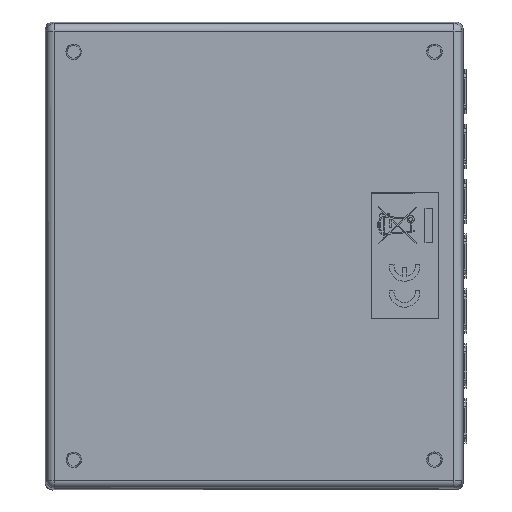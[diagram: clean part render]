
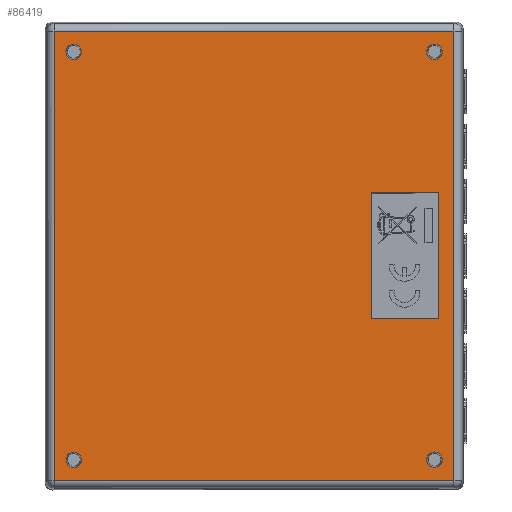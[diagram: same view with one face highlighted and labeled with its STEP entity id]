
A CAD part, front view. The second image highlights one B-rep face of the part: STEP entity #86419.
In plain terms, the highlighted planar face has unit normal (0, -1, 0) as drawn and (0, 0, -1) by its records, which use the part's own axes.
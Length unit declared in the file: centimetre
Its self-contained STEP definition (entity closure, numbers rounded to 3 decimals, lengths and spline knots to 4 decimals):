
#25109=CIRCLE('',#90044,0.1249);
#25110=CIRCLE('',#90045,0.1249);
#25111=CIRCLE('',#90046,0.1249);
#25112=CIRCLE('',#90047,0.1249);
#29337=VERTEX_POINT('',#111005);
#29338=VERTEX_POINT('',#111007);
#29340=VERTEX_POINT('',#111013);
#29342=VERTEX_POINT('',#111019);
#29463=VERTEX_POINT('',#112091);
#29464=VERTEX_POINT('',#112093);
#29465=VERTEX_POINT('',#112095);
#29466=VERTEX_POINT('',#112097);
#29467=VERTEX_POINT('',#112099);
#29468=VERTEX_POINT('',#112100);
#29469=VERTEX_POINT('',#112102);
#29470=VERTEX_POINT('',#112104);
#35680=VECTOR('',#95673,1.);
#35683=VECTOR('',#95677,1.);
#35686=VECTOR('',#95681,1.);
#35689=VECTOR('',#95685,1.);
#35850=VECTOR('',#95918,1.);
#35851=VECTOR('',#95919,1.);
#35852=VECTOR('',#95920,1.);
#35853=VECTOR('',#95921,1.);
#42544=LINE('',#111006,#35680);
#42547=LINE('',#111012,#35683);
#42550=LINE('',#111018,#35686);
#42553=LINE('',#111023,#35689);
#42714=LINE('',#112098,#35850);
#42715=LINE('',#112101,#35851);
#42716=LINE('',#112103,#35852);
#42717=LINE('',#112105,#35853);
#49512=EDGE_CURVE('',#29338,#29337,#42544,.F.);
#49515=EDGE_CURVE('',#29340,#29338,#42547,.F.);
#49518=EDGE_CURVE('',#29342,#29340,#42550,.F.);
#49521=EDGE_CURVE('',#29337,#29342,#42553,.F.);
#49702=EDGE_CURVE('',#29463,#29463,#25109,.F.);
#49703=EDGE_CURVE('',#29464,#29464,#25110,.F.);
#49704=EDGE_CURVE('',#29465,#29465,#25111,.F.);
#49705=EDGE_CURVE('',#29466,#29466,#25112,.F.);
#49706=EDGE_CURVE('',#29467,#29468,#42714,.T.);
#49707=EDGE_CURVE('',#29469,#29467,#42715,.T.);
#49708=EDGE_CURVE('',#29470,#29469,#42716,.T.);
#49709=EDGE_CURVE('',#29468,#29470,#42717,.T.);
#60157=ORIENTED_EDGE('',*,*,#49702,.T.);
#60158=ORIENTED_EDGE('',*,*,#49703,.T.);
#60159=ORIENTED_EDGE('',*,*,#49704,.T.);
#60160=ORIENTED_EDGE('',*,*,#49705,.T.);
#60161=ORIENTED_EDGE('',*,*,#49706,.F.);
#60162=ORIENTED_EDGE('',*,*,#49707,.F.);
#60163=ORIENTED_EDGE('',*,*,#49708,.F.);
#60164=ORIENTED_EDGE('',*,*,#49709,.F.);
#60165=ORIENTED_EDGE('',*,*,#49512,.T.);
#60166=ORIENTED_EDGE('',*,*,#49521,.T.);
#60167=ORIENTED_EDGE('',*,*,#49518,.T.);
#60168=ORIENTED_EDGE('',*,*,#49515,.T.);
#78151=EDGE_LOOP('',(#60157));
#78152=EDGE_LOOP('',(#60158));
#78153=EDGE_LOOP('',(#60159));
#78154=EDGE_LOOP('',(#60160));
#78155=EDGE_LOOP('',(#60161,#60162,#60163,#60164));
#78156=EDGE_LOOP('',(#60165,#60166,#60167,#60168));
#82297=FACE_BOUND('',#78151,.T.);
#82298=FACE_BOUND('',#78152,.T.);
#82299=FACE_BOUND('',#78153,.T.);
#82300=FACE_BOUND('',#78154,.T.);
#82301=FACE_BOUND('',#78155,.T.);
#82302=FACE_BOUND('',#78156,.T.);
#86419=ADVANCED_FACE('',(#82297,#82298,#82299,#82300,#82301,#82302),#143825,
 .F.);
#90043=AXIS2_PLACEMENT_3D('',#112089,#95909,$);
#90044=AXIS2_PLACEMENT_3D('',#112090,#95910,#95911);
#90045=AXIS2_PLACEMENT_3D('',#112092,#95912,#95913);
#90046=AXIS2_PLACEMENT_3D('',#112094,#95914,#95915);
#90047=AXIS2_PLACEMENT_3D('',#112096,#95916,#95917);
#95673=DIRECTION('',(-1.,0.,0.));
#95677=DIRECTION('',(0.,1.,0.));
#95681=DIRECTION('',(1.,0.,0.));
#95685=DIRECTION('',(0.,-1.,0.));
#95909=DIRECTION('',(0.,0.,1.));
#95910=DIRECTION('',(0.,0.,-1.));
#95911=DIRECTION('',(-0.125,0.,0.));
#95912=DIRECTION('',(0.,0.,-1.));
#95913=DIRECTION('',(-0.125,0.,0.));
#95914=DIRECTION('',(0.,0.,-1.));
#95915=DIRECTION('',(-0.125,0.,0.));
#95916=DIRECTION('',(0.,0.,-1.));
#95917=DIRECTION('',(-0.125,0.,0.));
#95918=DIRECTION('',(-1.,0.,0.));
#95919=DIRECTION('',(0.,1.,0.));
#95920=DIRECTION('',(1.,0.,0.));
#95921=DIRECTION('',(0.,-1.,0.));
#111005=CARTESIAN_POINT('',(1.0231,-2.9888,-0.0032));
#111006=CARTESIAN_POINT('',(0.,-2.9888,-0.0032));
#111007=CARTESIAN_POINT('',(-1.0231,-2.9888,-0.0032));
#111012=CARTESIAN_POINT('',(-1.0231,-0.6105,-0.0032));
#111013=CARTESIAN_POINT('',(-1.0231,-1.895,-0.0032));
#111018=CARTESIAN_POINT('',(0.,-1.895,-0.0032));
#111019=CARTESIAN_POINT('',(1.0231,-1.895,-0.0032));
#111023=CARTESIAN_POINT('',(1.0231,-0.6105,-0.0032));
#112089=CARTESIAN_POINT('',(0.,0.,
-0.0032));
#112090=CARTESIAN_POINT('',(3.302,2.921,-0.0032));
#112091=CARTESIAN_POINT('',(3.4269,2.921,-0.0032));
#112092=CARTESIAN_POINT('',(3.302,-2.921,-0.0032));
#112093=CARTESIAN_POINT('',(3.4269,-2.921,-0.0032));
#112094=CARTESIAN_POINT('',(-3.302,-2.921,-0.0032));
#112095=CARTESIAN_POINT('',(-3.1771,-2.921,-0.0032));
#112096=CARTESIAN_POINT('',(-3.302,2.921,-0.0032));
#112097=CARTESIAN_POINT('',(-3.1771,2.921,-0.0032));
#112098=CARTESIAN_POINT('',(0.,3.2357,-0.0032));
#112099=CARTESIAN_POINT('',(3.6357,3.2357,-0.0032));
#112100=CARTESIAN_POINT('',(-3.6357,3.2357,-0.0032));
#112101=CARTESIAN_POINT('',(3.6357,0.,-0.0032));
#112102=CARTESIAN_POINT('',(3.6357,-3.2357,-0.0032));
#112103=CARTESIAN_POINT('',(0.,-3.2357,-0.0032));
#112104=CARTESIAN_POINT('',(-3.6357,-3.2357,-0.0032));
#112105=CARTESIAN_POINT('',(-3.6357,0.,-0.0032));
#143825=PLANE('',#90043);
